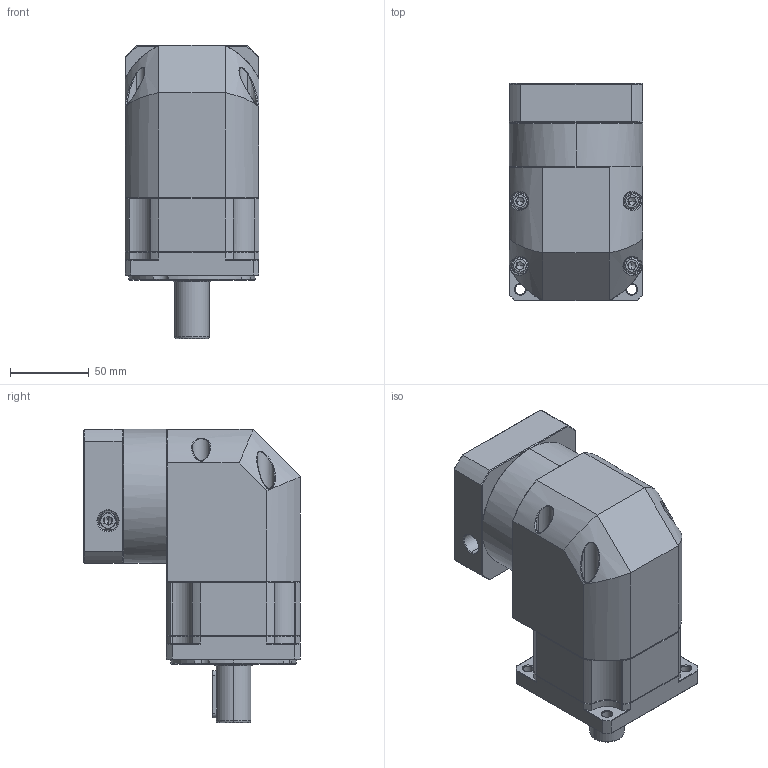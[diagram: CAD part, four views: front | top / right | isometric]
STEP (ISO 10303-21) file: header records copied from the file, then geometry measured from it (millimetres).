
FILE_DESCRIPTION (( 'STEP AP214' ), '1' );
FILE_NAME ('ZBR090-D22-L1-P2-19-70-90-M5.step', '2023-08-19T02:05:30', ( '' ), ( '' ), 'SwSTEP 2.0', 'SolidWorks 2016', '' );
FILE_SCHEMA (( 'AUTOMOTIVE_DESIGN' ));
Length unit declared in the file: millimetre
Products named in the file (1): ZBR090-D22-L1-P2-19-70-90-M5
Bounding box: 85 x 137.6 x 186 mm (x, y, z)
Volume: 1189276.9 mm3; surface area: 129398.9 mm2
Topology: 5 solids, 5 shells, 2402 faces, 6273 edges, 3963 vertices
Faces by surface type: plane 1157, cylinder 447, bspline 421, cone 351, torus 26
Entity records: 129534 total; most frequent: CARTESIAN_POINT 47779, ORIENTED_EDGE 12470, DIRECTION 9909, EDGE_CURVE 6235, VECTOR 3965, LINE 3965, VERTEX_POINT 3963, AXIS2_PLACEMENT_3D 2972
